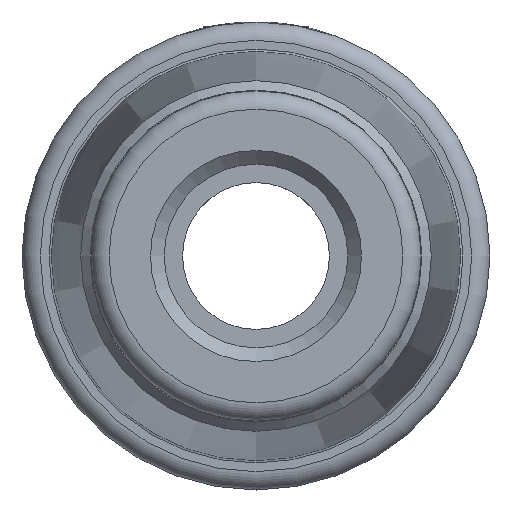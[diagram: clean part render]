
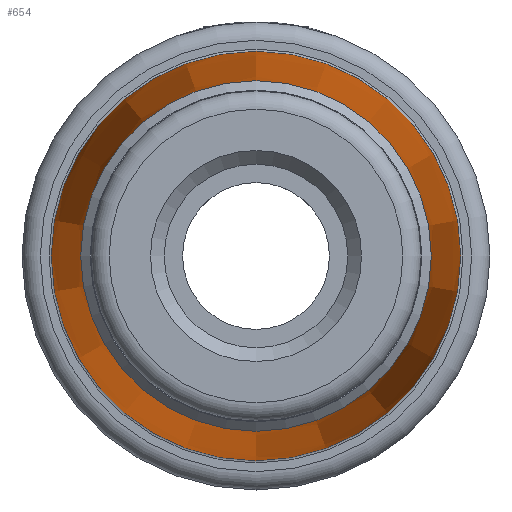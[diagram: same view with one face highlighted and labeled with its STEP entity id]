
A CAD part, left-side view. The second image highlights one B-rep face of the part: STEP entity #654.
In plain terms, the highlighted conical face has half-angle 1.484 degrees and reference radius 20.688 mm.
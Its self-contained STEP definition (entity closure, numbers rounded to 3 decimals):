
#62=CONICAL_SURFACE('',#747,20.688,0.026);
#68=LINE('',#1049,#103);
#103=VECTOR('',#853,20.688);
#177=FACE_OUTER_BOUND('',#214,.T.);
#214=EDGE_LOOP('',(#481,#482,#483,#484,#485,#486));
#268=CIRCLE('',#745,19.101);
#269=CIRCLE('',#746,19.101);
#270=CIRCLE('',#748,22.3);
#271=CIRCLE('',#749,22.3);
#310=VERTEX_POINT('',#1042);
#311=VERTEX_POINT('',#1044);
#312=VERTEX_POINT('',#1048);
#313=VERTEX_POINT('',#1050);
#379=EDGE_CURVE('',#310,#311,#268,.T.);
#380=EDGE_CURVE('',#311,#310,#269,.T.);
#381=EDGE_CURVE('',#311,#312,#68,.T.);
#382=EDGE_CURVE('',#312,#313,#270,.T.);
#383=EDGE_CURVE('',#313,#312,#271,.T.);
#481=ORIENTED_EDGE('',*,*,#379,.F.);
#482=ORIENTED_EDGE('',*,*,#380,.F.);
#483=ORIENTED_EDGE('',*,*,#381,.T.);
#484=ORIENTED_EDGE('',*,*,#382,.T.);
#485=ORIENTED_EDGE('',*,*,#383,.T.);
#486=ORIENTED_EDGE('',*,*,#381,.F.);
#654=ADVANCED_FACE('',(#177),#62,.T.);
#745=AXIS2_PLACEMENT_3D('',#1045,#847,#848);
#746=AXIS2_PLACEMENT_3D('',#1046,#849,#850);
#747=AXIS2_PLACEMENT_3D('',#1047,#851,#852);
#748=AXIS2_PLACEMENT_3D('',#1051,#854,#855);
#749=AXIS2_PLACEMENT_3D('',#1052,#856,#857);
#847=DIRECTION('center_axis',(-1.,0.,0.));
#848=DIRECTION('ref_axis',(0.,0.,-1.));
#849=DIRECTION('center_axis',(-1.,0.,0.));
#850=DIRECTION('ref_axis',(0.,0.,-1.));
#851=DIRECTION('center_axis',(1.,0.,0.));
#852=DIRECTION('ref_axis',(0.,0.,1.));
#853=DIRECTION('',(1.,0.,-0.026));
#854=DIRECTION('center_axis',(-1.,0.,0.));
#855=DIRECTION('ref_axis',(0.,0.,1.));
#856=DIRECTION('center_axis',(-1.,0.,0.));
#857=DIRECTION('ref_axis',(0.,0.,1.));
#1042=CARTESIAN_POINT('',(9.6,0.,19.101));
#1044=CARTESIAN_POINT('',(9.6,0.,-19.101));
#1045=CARTESIAN_POINT('Origin',(9.6,0.,
0.));
#1046=CARTESIAN_POINT('Origin',(9.6,0.,
0.));
#1047=CARTESIAN_POINT('Origin',(70.85,0.,0.));
#1048=CARTESIAN_POINT('',(133.1,0.,-22.3));
#1049=CARTESIAN_POINT('',(70.85,0.,-20.688));
#1050=CARTESIAN_POINT('',(133.1,0.,22.3));
#1051=CARTESIAN_POINT('Origin',(133.1,0.,0.));
#1052=CARTESIAN_POINT('Origin',(133.1,0.,0.));
